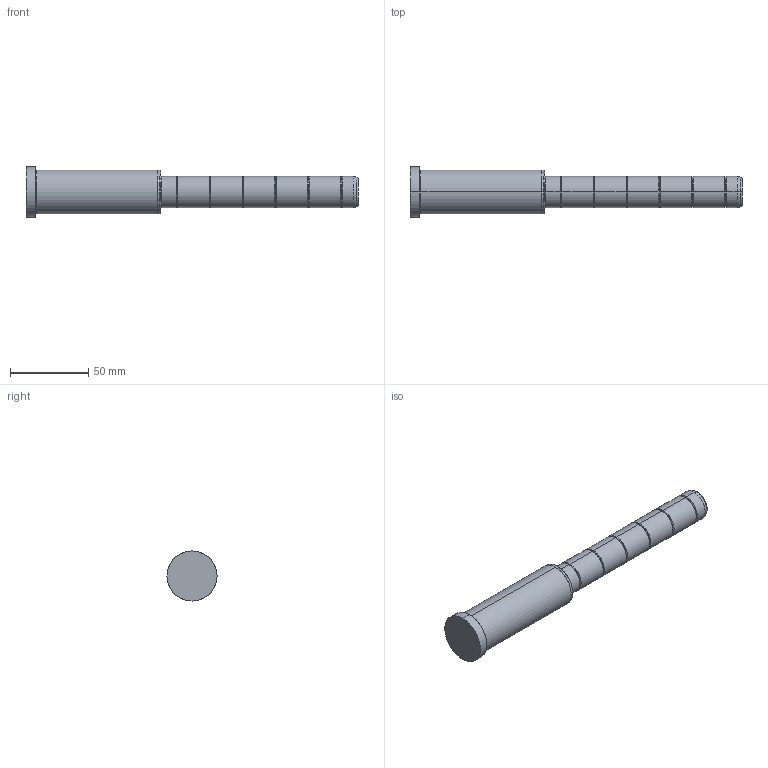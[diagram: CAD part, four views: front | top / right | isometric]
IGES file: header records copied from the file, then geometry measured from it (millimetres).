
Start section: SolidWorks IGES file using analytic representation for surfaces
Global section: file name: C:\Documents and Settings\kalite-mail\Desktop\IGS\D02\20\D02 - 20x86x126.IGS; native system: SolidWorks 2008; preprocessor: SolidWorks 2008; author: kalite-mail; date: 080616.165050; units: millimetre
Bounding box: 212 x 32 x 32 mm (x, y, z)
Surface area: 17266.1 mm2 (no closed solid volume)
Topology: 0 solids, 0 shells, 60 faces, 760 edges, 760 vertices
Faces by surface type: bspline 34, revolution 26
